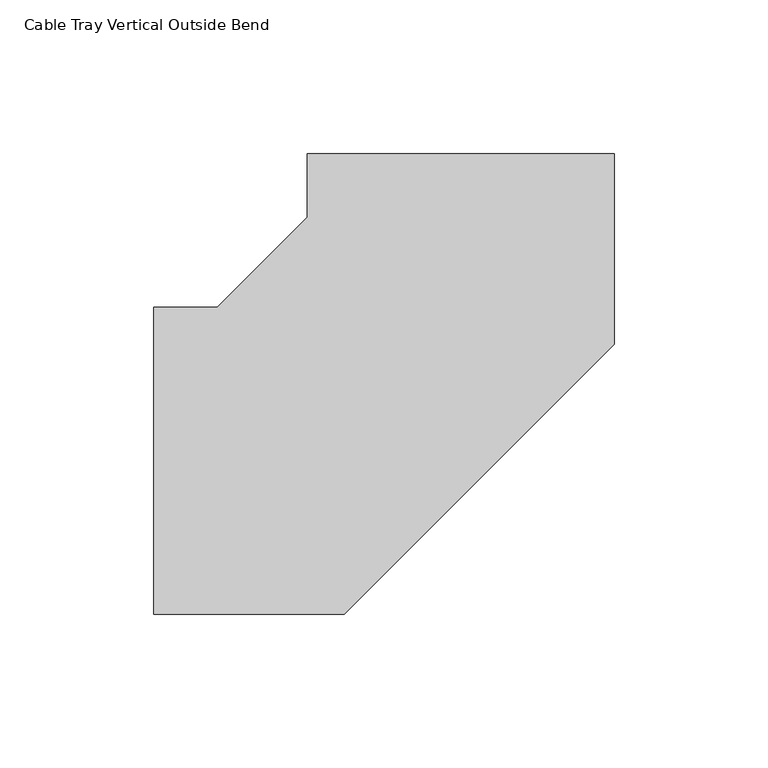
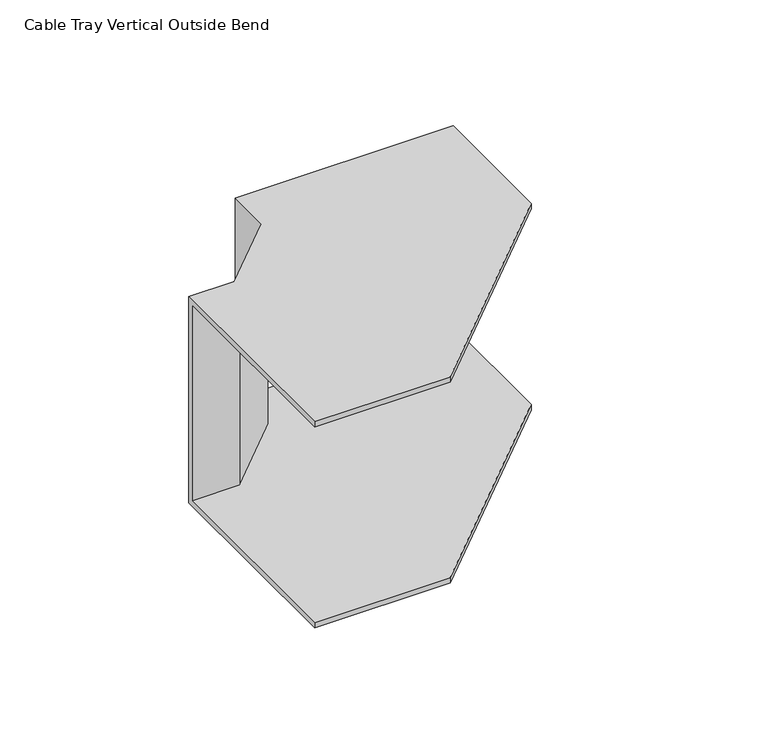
"""IFC4 building model written with IfcOpenShell, lengths in millimetres: cable carrier fitting geometry, Cable Tray Vertical Outside Bend : ELEC_ELV_TKG_N2402."""

from ifc_helpers import new_model, si_unit, origin, place, context, project, spatial, faceted_brep, source, transform, mapped, element, save


def cable_tray_vertical_outside_bend_0dbe7b70(model_context):
    return source(origin(), model_context, "Body", "Brep", [
        faceted_brep([(-100.0, -50.0, 50.0), (-100.0, 50.0, 50.0), (-100.0, 50.0, -50.0), (-100.0, -50.0, -50.0), (-100.0, -50.0, -47.46), (-100.0, 47.46, -47.46), (-100.0, 47.46, 47.46), (-100.0, -50.0, 47.46), (50.0, 100.0, 50.0), (50.0, 100.0, 47.46), (-47.46, 100.0, 47.46), (-47.46, 100.0, -47.46), (50.0, 100.0, -47.46), (50.0, 100.0, -50.0), (-50.0, 100.0, -50.0), (-50.0, 100.0, 50.0), (-37.8679656, -50.0, 50.0), (50.0, 37.8679656, 50.0), (-50.0, 79.2893219, 50.0), (-79.2893219, 50.0, 50.0), (-79.2893219, 50.0, -50.0), (-50.0, 79.2893219, -50.0), (50.0, 37.8679656, -50.0), (-37.8679656, -50.0, -50.0), (-37.8679656, -50.0, -47.46), (50.0, 37.8679656, -47.46), (-47.46, 78.2372194, -47.46), (-78.2372194, 47.46, -47.46), (-78.2372194, 47.46, 47.46), (-47.46, 78.2372194, 47.46), (50.0, 37.8679656, 47.46), (-37.8679656, -50.0, 47.46)], [[[0, 1, 2, 3, 4, 5, 6, 7]], [[8, 9, 10, 11, 12, 13, 14, 15]], [[1, 0, 16, 17, 8, 15, 18, 19]], [[2, 1, 19, 20]], [[3, 2, 20, 21, 14, 13, 22, 23]], [[4, 3, 23, 24]], [[5, 4, 24, 25, 12, 11, 26, 27]], [[6, 5, 27, 28]], [[7, 6, 28, 29, 10, 9, 30, 31]], [[0, 7, 31, 16]], [[20, 19, 18, 21]], [[24, 23, 22, 25]], [[28, 27, 26, 29]], [[16, 31, 30, 17]], [[21, 18, 15, 14]], [[25, 22, 13, 12]], [[29, 26, 11, 10]], [[17, 30, 9, 8]]]),
    ])


if __name__ == "__main__":
    model = new_model("IFC4")
    model_context = context("Model", 3, world=origin())
    ifc_project = project(units=[si_unit("LENGTHUNIT", "METRE", prefix="MILLI")], contexts=[model_context])
    site = spatial("IfcSite", under=ifc_project)
    building = spatial("IfcBuilding", under=site)
    placement = place(None, origin())
    cable_tray_vertical_outside_bend_shape = cable_tray_vertical_outside_bend_0dbe7b70(model_context)
    element("IfcCableCarrierFitting", 1, ObjectType="Cable Tray Vertical Outside Bend : ELEC_ELV_TKG_N2402", at=placement, inside=building, context=model_context, shape_type="MappedRepresentation", body=[
        mapped(cable_tray_vertical_outside_bend_shape, transform((0.0, 0.0, 0.0), x_axis=(1.0, 0.0, 0.0), y_axis=(0.0, 1.0, 0.0), z_axis=(0.0, 0.0, 1.0))),
    ])
    save(model, "model.ifc")
